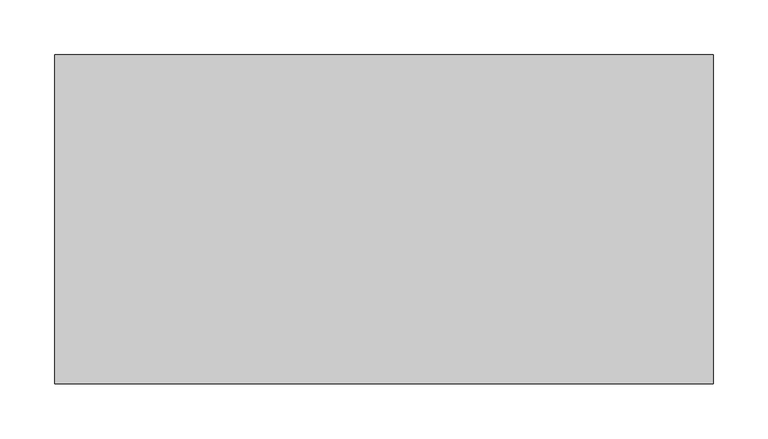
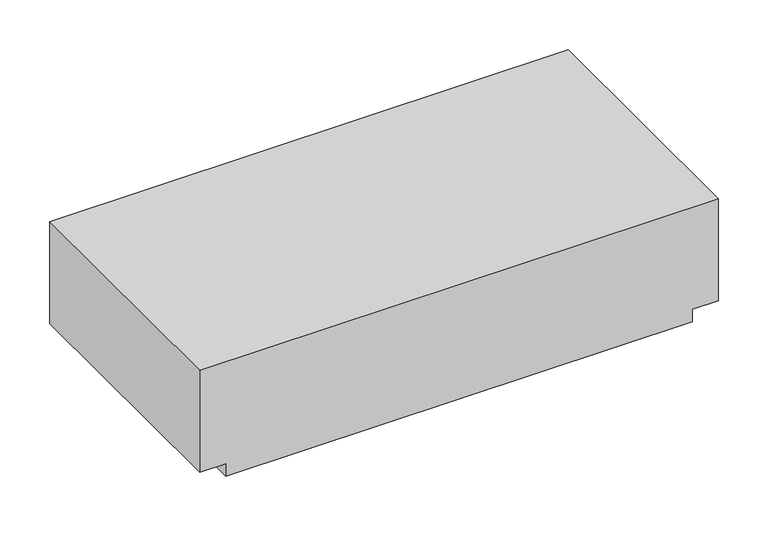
"""IFC4 building model written with IfcOpenShell, lengths in millimetres: proxy geometry, Módulo Laje de Concreto Celular com Friso - Celucon : MLCC friso 14x30x60cm (A x B x C)."""

from ifc_helpers import new_model, si_unit, frame, origin, place, context, project, spatial, polyline, outline, extrude, source, transform, mapped, element, save


def generic_models_2375c835(model_context):
    return source(origin(), model_context, "Body", "SweptSolid", [
        extrude(outline(polyline([(140.0, 300.0), (140.0, -300.0), (15.0, -300.0), (15.0, -270.0), (0.0, -270.0), (0.0, 270.0), (15.0, 270.0), (15.0, 300.0), (140.0, 300.0)])), frame((0.0, -150.0, 0.0), z_axis=(0.0, 1.0, 0.0), x_axis=(0.0, 0.0, 1.0)), (0.0, 0.0, 1.0), 300.0),
    ])


if __name__ == "__main__":
    model = new_model("IFC4")
    model_context = context("Model", 3, world=origin())
    ifc_project = project(units=[si_unit("LENGTHUNIT", "METRE", prefix="MILLI")], contexts=[model_context])
    site = spatial("IfcSite", under=ifc_project)
    building = spatial("IfcBuilding", under=site)
    placement = place(None, origin())
    generic_models_shape = generic_models_2375c835(model_context)
    element("IfcBuildingElementProxy", 1, Name="Módulo Laje de Concreto Celular com Friso - Celucon : MLCC friso 14x30x60cm (A x B x C)", ObjectType="Módulo Laje de Concreto Celular com Friso - Celucon : MLCC friso 14x30x60cm (A x B x C)", at=placement, inside=building, context=model_context, shape_type="MappedRepresentation", body=[
        mapped(generic_models_shape, transform((0.0, 0.0, 0.0), x_axis=(1.0, 0.0, 0.0), y_axis=(0.0, 1.0, 0.0), z_axis=(0.0, 0.0, 1.0))),
    ])
    save(model, "model.ifc")
